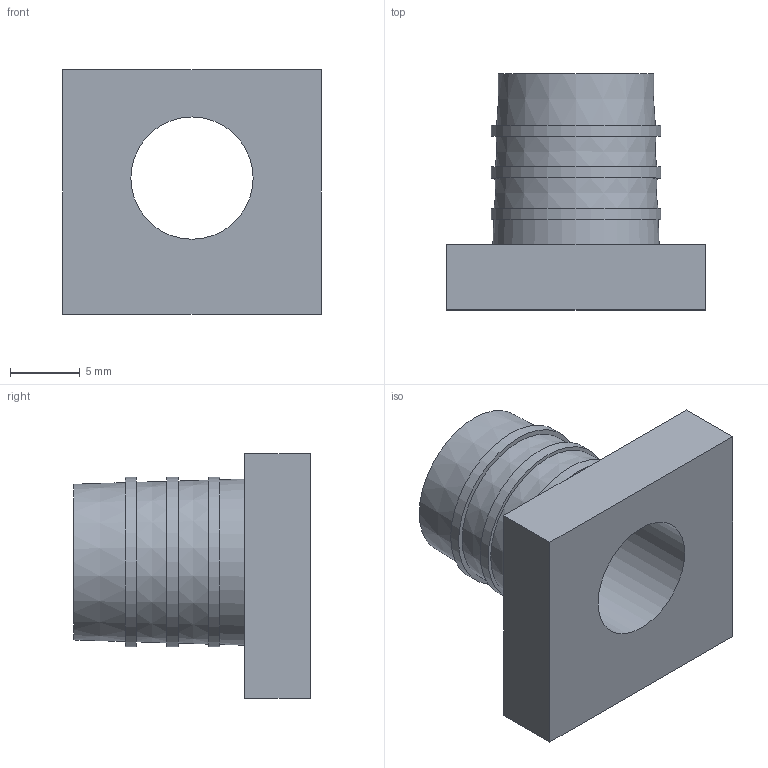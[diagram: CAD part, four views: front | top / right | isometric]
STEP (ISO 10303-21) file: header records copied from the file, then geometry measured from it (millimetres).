
FILE_DESCRIPTION(('FreeCAD Model'),'2;1');
FILE_NAME('Open CASCADE Shape Model','2026-10-24T11:59:21',('FreeCAD'),( 'FreeCAD'),'Open CASCADE STEP processor 7.8','FreeCAD','Unknown');
FILE_SCHEMA(('AUTOMOTIVE_DESIGN { 1 0 10303 214 1 1 1 1 }'));
Length unit declared in the file: millimetre
Products named in the file (1): Open CASCADE STEP translator 7.8 6
Bounding box: 18.6 x 17 x 17.6 mm (x, y, z)
Volume: 1825.4 mm3; surface area: 1844.5 mm2
Topology: 1 solids, 1 shells, 21 faces, 36 edges, 24 vertices
Faces by surface type: plane 13, cylinder 4, cone 4
Full cylindrical faces by diameter (mm): 8.8 x1, 12.2 x3
Entity records: 520 total; most frequent: DIRECTION 96, CARTESIAN_POINT 82, ORIENTED_EDGE 72, AXIS2_PLACEMENT_3D 38, EDGE_CURVE 36, FACE_BOUND 30, EDGE_LOOP 30, VERTEX_POINT 24
